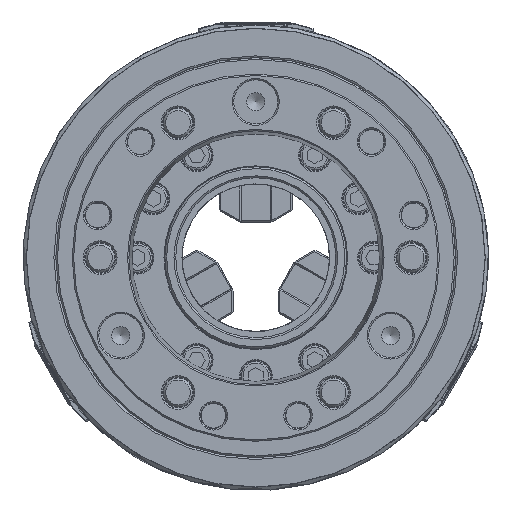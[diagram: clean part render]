
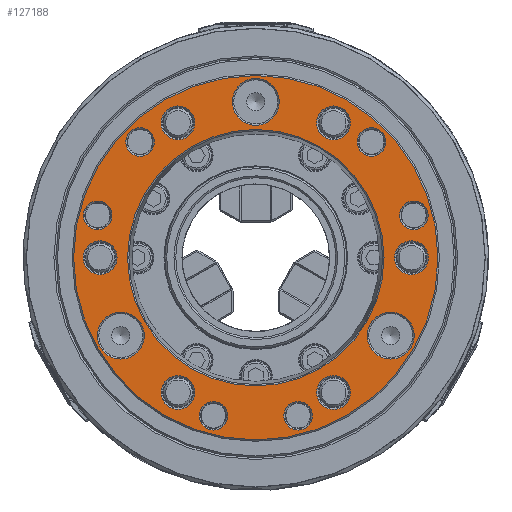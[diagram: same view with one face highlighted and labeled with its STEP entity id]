
A CAD part, front view. The second image highlights one B-rep face of the part: STEP entity #127188.
In plain terms, the highlighted planar face has unit normal (0, -1, 0).
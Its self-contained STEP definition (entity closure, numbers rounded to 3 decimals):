
#35278=FACE_BOUND('',#42695,.T.);
#35279=FACE_BOUND('',#42696,.T.);
#35280=FACE_BOUND('',#42697,.T.);
#35281=FACE_BOUND('',#42698,.T.);
#35282=FACE_BOUND('',#42699,.T.);
#35283=FACE_BOUND('',#42700,.T.);
#35284=FACE_BOUND('',#42701,.T.);
#35285=FACE_BOUND('',#42702,.T.);
#35286=FACE_BOUND('',#42703,.T.);
#35287=FACE_BOUND('',#42704,.T.);
#35288=FACE_BOUND('',#42705,.T.);
#35289=FACE_BOUND('',#42706,.T.);
#35290=FACE_BOUND('',#42707,.T.);
#35291=FACE_BOUND('',#42708,.T.);
#35292=FACE_BOUND('',#42709,.T.);
#35293=FACE_BOUND('',#42710,.T.);
#36199=FACE_OUTER_BOUND('',#42694,.T.);
#42694=EDGE_LOOP('',(#83683));
#42695=EDGE_LOOP('',(#83684));
#42696=EDGE_LOOP('',(#83685));
#42697=EDGE_LOOP('',(#83686));
#42698=EDGE_LOOP('',(#83687));
#42699=EDGE_LOOP('',(#83688));
#42700=EDGE_LOOP('',(#83689));
#42701=EDGE_LOOP('',(#83690));
#42702=EDGE_LOOP('',(#83691));
#42703=EDGE_LOOP('',(#83692));
#42704=EDGE_LOOP('',(#83693));
#42705=EDGE_LOOP('',(#83694));
#42706=EDGE_LOOP('',(#83695));
#42707=EDGE_LOOP('',(#83696));
#42708=EDGE_LOOP('',(#83697));
#42709=EDGE_LOOP('',(#83698));
#42710=EDGE_LOOP('',(#83699));
#49564=CIRCLE('',#133763,100.2);
#49565=CIRCLE('',#133764,9.3);
#49566=CIRCLE('',#133765,9.3);
#49567=CIRCLE('',#133766,9.3);
#49568=CIRCLE('',#133767,9.3);
#49569=CIRCLE('',#133768,9.3);
#49570=CIRCLE('',#133769,9.3);
#49571=CIRCLE('',#133770,7.85);
#49572=CIRCLE('',#133771,7.85);
#49573=CIRCLE('',#133772,7.85);
#49574=CIRCLE('',#133773,7.85);
#49575=CIRCLE('',#133774,7.85);
#49576=CIRCLE('',#133775,7.85);
#49577=CIRCLE('',#133776,12.9);
#49578=CIRCLE('',#133777,12.9);
#49579=CIRCLE('',#133778,12.9);
#49580=CIRCLE('',#133779,70.523);
#50798=VERTEX_POINT('',#180533);
#50799=VERTEX_POINT('',#180535);
#50800=VERTEX_POINT('',#180537);
#50801=VERTEX_POINT('',#180539);
#50802=VERTEX_POINT('',#180541);
#50803=VERTEX_POINT('',#180543);
#50804=VERTEX_POINT('',#180545);
#50805=VERTEX_POINT('',#180547);
#50806=VERTEX_POINT('',#180549);
#50807=VERTEX_POINT('',#180551);
#50808=VERTEX_POINT('',#180553);
#50809=VERTEX_POINT('',#180555);
#50810=VERTEX_POINT('',#180557);
#50811=VERTEX_POINT('',#180559);
#50812=VERTEX_POINT('',#180561);
#50813=VERTEX_POINT('',#180563);
#50814=VERTEX_POINT('',#180565);
#63692=EDGE_CURVE('',#50798,#50798,#49564,.T.);
#63693=EDGE_CURVE('',#50799,#50799,#49565,.T.);
#63694=EDGE_CURVE('',#50800,#50800,#49566,.T.);
#63695=EDGE_CURVE('',#50801,#50801,#49567,.T.);
#63696=EDGE_CURVE('',#50802,#50802,#49568,.T.);
#63697=EDGE_CURVE('',#50803,#50803,#49569,.T.);
#63698=EDGE_CURVE('',#50804,#50804,#49570,.T.);
#63699=EDGE_CURVE('',#50805,#50805,#49571,.T.);
#63700=EDGE_CURVE('',#50806,#50806,#49572,.T.);
#63701=EDGE_CURVE('',#50807,#50807,#49573,.T.);
#63702=EDGE_CURVE('',#50808,#50808,#49574,.T.);
#63703=EDGE_CURVE('',#50809,#50809,#49575,.T.);
#63704=EDGE_CURVE('',#50810,#50810,#49576,.T.);
#63705=EDGE_CURVE('',#50811,#50811,#49577,.T.);
#63706=EDGE_CURVE('',#50812,#50812,#49578,.T.);
#63707=EDGE_CURVE('',#50813,#50813,#49579,.T.);
#63708=EDGE_CURVE('',#50814,#50814,#49580,.T.);
#83683=ORIENTED_EDGE('',*,*,#63692,.T.);
#83684=ORIENTED_EDGE('',*,*,#63693,.T.);
#83685=ORIENTED_EDGE('',*,*,#63694,.T.);
#83686=ORIENTED_EDGE('',*,*,#63695,.T.);
#83687=ORIENTED_EDGE('',*,*,#63696,.T.);
#83688=ORIENTED_EDGE('',*,*,#63697,.T.);
#83689=ORIENTED_EDGE('',*,*,#63698,.T.);
#83690=ORIENTED_EDGE('',*,*,#63699,.T.);
#83691=ORIENTED_EDGE('',*,*,#63700,.T.);
#83692=ORIENTED_EDGE('',*,*,#63701,.T.);
#83693=ORIENTED_EDGE('',*,*,#63702,.T.);
#83694=ORIENTED_EDGE('',*,*,#63703,.T.);
#83695=ORIENTED_EDGE('',*,*,#63704,.T.);
#83696=ORIENTED_EDGE('',*,*,#63705,.T.);
#83697=ORIENTED_EDGE('',*,*,#63706,.T.);
#83698=ORIENTED_EDGE('',*,*,#63707,.T.);
#83699=ORIENTED_EDGE('',*,*,#63708,.T.);
#122955=PLANE('',#133762);
#127188=ADVANCED_FACE('',(#36199,#35278,#35279,#35280,#35281,#35282,#35283,
#35284,#35285,#35286,#35287,#35288,#35289,#35290,#35291,#35292,#35293),
#122955,.T.);
#133762=AXIS2_PLACEMENT_3D('',#180532,#143941,#143942);
#133763=AXIS2_PLACEMENT_3D('',#180534,#143943,#143944);
#133764=AXIS2_PLACEMENT_3D('',#180536,#143945,#143946);
#133765=AXIS2_PLACEMENT_3D('',#180538,#143947,#143948);
#133766=AXIS2_PLACEMENT_3D('',#180540,#143949,#143950);
#133767=AXIS2_PLACEMENT_3D('',#180542,#143951,#143952);
#133768=AXIS2_PLACEMENT_3D('',#180544,#143953,#143954);
#133769=AXIS2_PLACEMENT_3D('',#180546,#143955,#143956);
#133770=AXIS2_PLACEMENT_3D('',#180548,#143957,#143958);
#133771=AXIS2_PLACEMENT_3D('',#180550,#143959,#143960);
#133772=AXIS2_PLACEMENT_3D('',#180552,#143961,#143962);
#133773=AXIS2_PLACEMENT_3D('',#180554,#143963,#143964);
#133774=AXIS2_PLACEMENT_3D('',#180556,#143965,#143966);
#133775=AXIS2_PLACEMENT_3D('',#180558,#143967,#143968);
#133776=AXIS2_PLACEMENT_3D('',#180560,#143969,#143970);
#133777=AXIS2_PLACEMENT_3D('',#180562,#143971,#143972);
#133778=AXIS2_PLACEMENT_3D('',#180564,#143973,#143974);
#133779=AXIS2_PLACEMENT_3D('',#180566,#143975,#143976);
#143941=DIRECTION('center_axis',(0.,-1.,0.));
#143942=DIRECTION('ref_axis',(0.,0.,-1.));
#143943=DIRECTION('center_axis',(0.,-1.,0.));
#143944=DIRECTION('ref_axis',(0.581,0.,0.814));
#143945=DIRECTION('center_axis',(0.,1.,0.));
#143946=DIRECTION('ref_axis',(0.414,0.,0.91));
#143947=DIRECTION('center_axis',(0.,1.,0.));
#143948=DIRECTION('ref_axis',(0.995,0.,0.096));
#143949=DIRECTION('center_axis',(0.,1.,0.));
#143950=DIRECTION('ref_axis',(0.581,0.,-0.814));
#143951=DIRECTION('center_axis',(0.,1.,0.));
#143952=DIRECTION('ref_axis',(-0.414,0.,-0.91));
#143953=DIRECTION('center_axis',(0.,1.,0.));
#143954=DIRECTION('ref_axis',(-0.995,0.,-0.096));
#143955=DIRECTION('center_axis',(0.,1.,0.));
#143956=DIRECTION('ref_axis',(-0.581,0.,
0.814));
#143957=DIRECTION('center_axis',(0.,1.,0.));
#143958=DIRECTION('ref_axis',(-0.995,0.,-0.096));
#143959=DIRECTION('center_axis',(0.,1.,0.));
#143960=DIRECTION('ref_axis',(-0.995,0.,-0.096));
#143961=DIRECTION('center_axis',(0.,1.,0.));
#143962=DIRECTION('ref_axis',(0.414,0.,0.91));
#143963=DIRECTION('center_axis',(0.,1.,0.));
#143964=DIRECTION('ref_axis',(0.414,0.,0.91));
#143965=DIRECTION('center_axis',(0.,1.,0.));
#143966=DIRECTION('ref_axis',(0.581,0.,-0.814));
#143967=DIRECTION('center_axis',(0.,1.,0.));
#143968=DIRECTION('ref_axis',(0.581,0.,-0.814));
#143969=DIRECTION('center_axis',(0.,1.,0.));
#143970=DIRECTION('ref_axis',(0.995,0.,0.096));
#143971=DIRECTION('center_axis',(0.,1.,0.));
#143972=DIRECTION('ref_axis',(-0.414,0.,-0.91));
#143973=DIRECTION('center_axis',(0.,1.,0.));
#143974=DIRECTION('ref_axis',(-0.581,0.,0.814));
#143975=DIRECTION('center_axis',(0.,1.,0.));
#143976=DIRECTION('ref_axis',(0.581,0.,-0.814));
#180532=CARTESIAN_POINT('Origin',(0.,-23.,100.21));
#180533=CARTESIAN_POINT('',(0.,-23.,100.2));
#180534=CARTESIAN_POINT('Origin',(0.,-23.,0.));
#180535=CARTESIAN_POINT('',(50.854,-23.,-69.482));
#180536=CARTESIAN_POINT('Origin',(42.8,-23.,-74.132));
#180537=CARTESIAN_POINT('',(-34.746,-23.,-78.782));
#180538=CARTESIAN_POINT('Origin',(-42.8,-23.,-74.132));
#180539=CARTESIAN_POINT('',(-85.6,-23.,-9.3));
#180540=CARTESIAN_POINT('Origin',(-85.6,-23.,0.));
#180541=CARTESIAN_POINT('',(-50.854,-23.,69.482));
#180542=CARTESIAN_POINT('Origin',(-42.8,-23.,74.132));
#180543=CARTESIAN_POINT('',(34.746,-23.,78.782));
#180544=CARTESIAN_POINT('Origin',(42.8,-23.,74.132));
#180545=CARTESIAN_POINT('',(85.6,-23.,9.3));
#180546=CARTESIAN_POINT('Origin',(85.6,-23.,0.));
#180547=CARTESIAN_POINT('',(16.495,-23.,-83.008));
#180548=CARTESIAN_POINT('Origin',(23.294,-23.,-86.933));
#180549=CARTESIAN_POINT('',(-30.092,-23.,-83.008));
#180550=CARTESIAN_POINT('Origin',(-23.294,-23.,-86.933));
#180551=CARTESIAN_POINT('',(-80.135,-23.,27.219));
#180552=CARTESIAN_POINT('Origin',(-86.933,-23.,23.294));
#180553=CARTESIAN_POINT('',(-56.841,-23.,67.565));
#180554=CARTESIAN_POINT('Origin',(-63.64,-23.,63.64));
#180555=CARTESIAN_POINT('',(63.64,-23.,55.79));
#180556=CARTESIAN_POINT('Origin',(63.64,-23.,63.64));
#180557=CARTESIAN_POINT('',(86.933,-23.,15.444));
#180558=CARTESIAN_POINT('Origin',(86.933,-23.,23.294));
#180559=CARTESIAN_POINT('',(-63.047,-23.,-49.3));
#180560=CARTESIAN_POINT('Origin',(-74.218,-23.,-42.85));
#180561=CARTESIAN_POINT('',(-11.172,-23.,79.25));
#180562=CARTESIAN_POINT('Origin',(0.,-23.,85.7));
#180563=CARTESIAN_POINT('',(74.218,-23.,-29.95));
#180564=CARTESIAN_POINT('Origin',(74.218,-23.,-42.85));
#180565=CARTESIAN_POINT('',(0.,-23.,-70.523));
#180566=CARTESIAN_POINT('Origin',(0.,-23.,0.));
